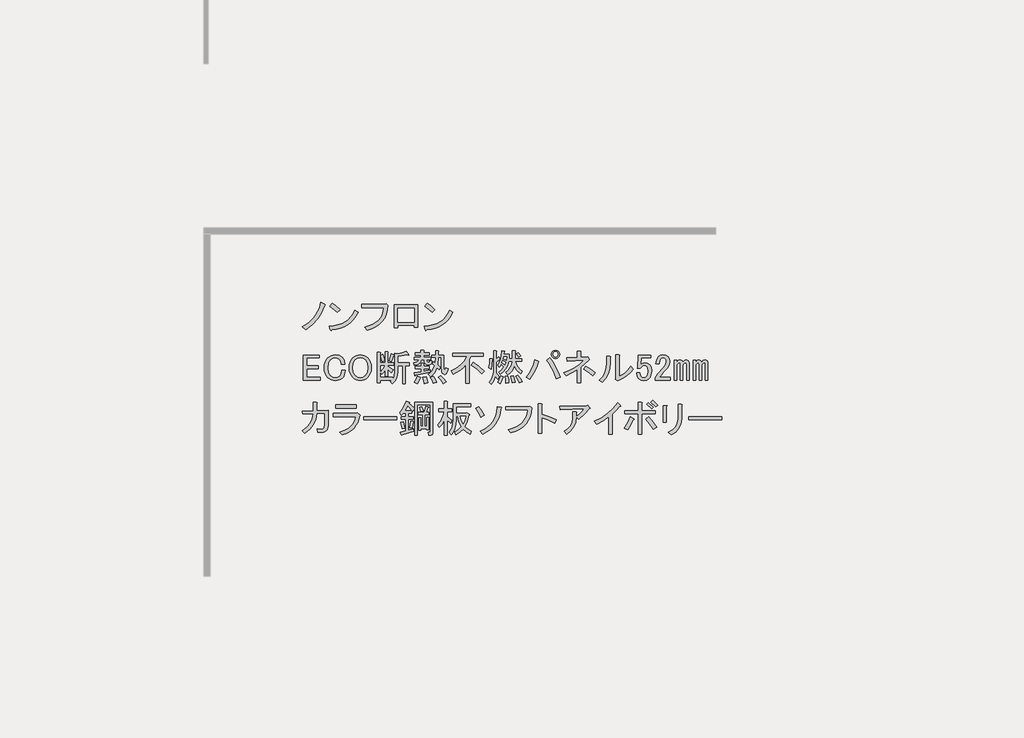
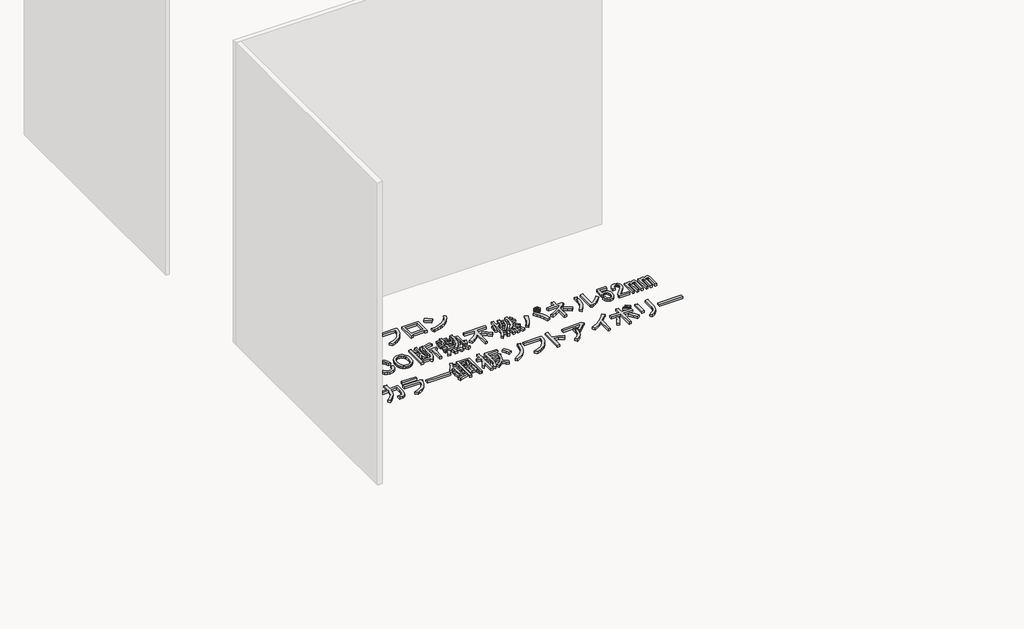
# One storey, part 102 of 117: 1 proxy.
"""IFC4 building model written with IfcOpenShell, lengths in millimetres."""

from ifc_helpers import new_model, si_unit, frame, origin, place, context, project, spatial, polyline, outline, extrude, element, save

model = new_model("IFC4")

# Units and contexts
model_context = context("Model", 3, world=origin())
ifc_project = project(units=[si_unit("LENGTHUNIT", "METRE", prefix="MILLI")], contexts=[model_context])

# Site, building, storey
site = spatial("IfcSite", under=ifc_project)
building = spatial("IfcBuilding", under=site)
storey = spatial("IfcBuildingStorey", under=building, Name="レベル 1", Elevation=500.0)

# Proxy
placement = place(None, origin())
element("IfcBuildingElementProxy", 1, Name="200㎜\u3000MS Pゴシック", ObjectType="200㎜\u3000MS Pゴシック", at=placement, inside=storey, context=model_context, shape_type="SweptSolid", body=[
    extrude(outline(polyline([(32944.6706985, 7391.9503118), (32919.0952502, 7332.1784775), (32890.646156, 7286.2001434), (32848.9782907, 7240.7965385), (32799.8389462, 7203.439142), (32772.2519457, 7225.2788507), (32819.9544673, 7255.7394971), (32859.6107805, 7294.2463519), (32876.9963381, 7318.1694538), (32892.3703435, 7346.2593423), (32905.7327969, 7378.5160173), (32917.0836981, 7414.9394788), (32948.1190736, 7401.1459786), (32951.2800841, 7396.5481452), (32944.6706985, 7391.9503118)])), frame((0.0, 0.0, 500.0), z_axis=(0.0, 0.0, 1.0), x_axis=(1.0, 0.0, 0.0)), (0.0, 0.0, 1.0), 25.0),
    extrude(outline(polyline([(33044.3977052, 7336.7763109), (32985.7753292, 7383.9041033), (33005.3161212, 7408.0427287), (33032.6157571, 7388.2145721), (33066.2374138, 7358.6160196), (33044.3977052, 7336.7763109)])), frame((0.0, 0.0, 500.0), z_axis=(0.0, 0.0, 1.0), x_axis=(1.0, 0.0, 0.0)), (0.0, 0.0, 1.0), 25.0),
    extrude(outline(polyline([(33206.4713328, 7336.7763109), (33189.947869, 7307.034076), (33170.8381239, 7281.0275808), (33149.1420975, 7258.7568252), (33124.8597898, 7240.2218093), (33097.9912008, 7225.422533), (33068.5363306, 7214.3589964), (33036.495179, 7207.0311994), (33001.8677461, 7203.439142), (32996.1204544, 7195.3929336), (32990.3731626, 7201.1402253), (32981.1774958, 7231.0261425), (33017.0082679, 7233.7022252), (33049.7857912, 7240.0062859), (33079.5100658, 7249.9383244), (33106.1810916, 7263.4983409), (33129.7988687, 7280.6863354), (33150.363397, 7301.5023077), (33167.8746766, 7325.946258), (33182.3327074, 7354.0181862), (33206.4713328, 7336.7763109)])), frame((0.0, 0.0, 500.0), z_axis=(0.0, 0.0, 1.0), x_axis=(1.0, 0.0, 0.0)), (0.0, 0.0, 1.0), 25.0),
    extrude(outline(polyline([(33257.2314136, 7221.8304757), (33291.014713, 7231.5110702), (33320.5234641, 7243.8857078), (33345.757667, 7258.9543884), (33366.7173217, 7276.717112), (33383.402428, 7297.1738786), (33395.8129862, 7320.3246882), (33403.9489961, 7346.1695409), (33407.8104577, 7374.7084365), (33235.3917049, 7374.7084365), (33235.3917049, 7399.9965202), (33410.1093744, 7399.9965202), (33426.2017914, 7403.4448953), (33438.8458332, 7391.9503118), (33435.325617, 7355.4550091), (33427.0638851, 7322.4080815), (33414.0606375, 7292.8095289), (33396.3158742, 7266.6593514), (33373.8295952, 7243.957549), (33346.6018005, 7224.7041216), (33314.6324901, 7208.8990692), (33277.921664, 7196.5423919), (33257.2314136, 7221.8304757)])), frame((0.0, 0.0, 500.0), z_axis=(0.0, 0.0, 1.0), x_axis=(1.0, 0.0, 0.0)), (0.0, 0.0, 1.0), 25.0),
    extrude(outline(polyline([(33671.955987, 7222.979934), (33645.5184449, 7222.979934), (33645.5184449, 7235.6239759), (33517.9285679, 7235.6239759), (33517.9285679, 7217.2326423), (33491.4910258, 7217.2326423), (33491.4910258, 7396.5481452), (33671.955987, 7396.5481452), (33671.955987, 7222.979934)]), holes=[polyline([(33517.9285679, 7371.2600614), (33517.9285679, 7260.9120596), (33645.5184449, 7260.9120596), (33645.5184449, 7371.2600614), (33517.9285679, 7371.2600614)])]), frame((0.0, 0.0, 500.0), z_axis=(0.0, 0.0, 1.0), x_axis=(1.0, 0.0, 0.0)), (0.0, 0.0, 1.0), 25.0),
    extrude(outline(polyline([(33948.0099049, 7336.7763109), (33931.4864411, 7307.034076), (33912.376696, 7281.0275808), (33890.6806696, 7258.7568252), (33866.3983619, 7240.2218093), (33839.5297729, 7225.422533), (33810.0749026, 7214.3589964), (33778.0337511, 7207.0311994), (33743.4063182, 7203.439142), (33737.6590264, 7195.3929336), (33731.9117347, 7201.1402253), (33722.7160679, 7231.0261425), (33758.5468399, 7233.7022252), (33791.3243633, 7240.0062859), (33821.0486378, 7249.9383244), (33847.7196637, 7263.4983409), (33871.3374407, 7280.6863354), (33891.9019691, 7301.5023077), (33909.4132486, 7325.946258), (33923.8712795, 7354.0181862), (33948.0099049, 7336.7763109)])), frame((0.0, 0.0, 500.0), z_axis=(0.0, 0.0, 1.0), x_axis=(1.0, 0.0, 0.0)), (0.0, 0.0, 1.0), 25.0),
    extrude(outline(polyline([(33785.9362772, 7336.7763109), (33727.3139013, 7383.9041033), (33746.8546933, 7408.0427287), (33774.1543291, 7388.2145721), (33807.7759859, 7358.6160196), (33785.9362772, 7336.7763109)])), frame((0.0, 0.0, 500.0), z_axis=(0.0, 0.0, 1.0), x_axis=(1.0, 0.0, 0.0)), (0.0, 0.0, 1.0), 25.0),
    extrude(outline(polyline([(32777.9992375, 7003.4448953), (32904.4396562, 7003.4448953), (32904.4396562, 6981.6051866), (32804.4367796, 6981.6051866), (32804.4367796, 6920.683894), (32897.5429061, 6920.683894), (32897.5429061, 6898.8441853), (32804.4367796, 6898.8441853), (32804.4367796, 6828.7272258), (32910.186948, 6828.7272258), (32910.186948, 6806.8875171), (32777.9992375, 6806.8875171), (32777.9992375, 7003.4448953)])), frame((0.0, 0.0, 500.0), z_axis=(0.0, 0.0, 1.0), x_axis=(1.0, 0.0, 0.0)), (0.0, 0.0, 1.0), 25.0),
    extrude(outline(polyline([(32942.2798252, 6904.591477), (32944.0758538, 6928.514579), (32949.4639399, 6949.7077173), (32958.4440832, 6968.1708921), (32971.016284, 6983.9041033), (32996.0170031, 7000.2838848), (33027.3397432, 7005.743812), (33058.0877541, 7000.858614), (33081.3642858, 6986.20302), (33097.1693381, 6962.6391238), (33103.2039944, 6933.3279358), (33075.616994, 6933.3279358), (33070.731796, 6954.5929153), (33060.6740354, 6970.1106031), (33045.4437123, 6980.4557283), (33027.3397432, 6983.9041033), (33007.7989512, 6979.8809991), (32990.5570759, 6967.8116864), (32981.5050914, 6956.1015794), (32975.0393882, 6941.6615089), (32969.8668256, 6904.591477), (32975.0393882, 6867.5214452), (32981.5050914, 6853.0813746), (32990.5570759, 6841.3712677), (33007.2242221, 6830.1640487), (33027.3397432, 6826.4283091), (33047.742629, 6829.5893196), (33062.9729521, 6839.072351), (33075.0422648, 6858.6131429), (33079.0653691, 6885.050685), (33106.6523695, 6885.050685), (33100.3303486, 6850.2795699), (33093.2899162, 6836.1268639), (33083.6632025, 6824.1293924), (33072.8151893, 6815.5802959), (33059.8119417, 6809.4737984), (33027.3397432, 6804.5886004), (32996.0170031, 6810.0485276), (32971.016284, 6826.4283091), (32958.4440832, 6842.0896791), (32949.4639399, 6860.3373305), (32944.0758538, 6881.1712631), (32942.2798252, 6904.591477)])), frame((0.0, 0.0, 500.0), z_axis=(0.0, 0.0, 1.0), x_axis=(1.0, 0.0, 0.0)), (0.0, 0.0, 1.0), 25.0),
    extrude(outline(polyline([(33137.6417667, 6905.7409354), (33139.3659542, 6928.5864201), (33144.5385168, 6948.8456236), (33153.1594544, 6966.5185457), (33165.2287671, 6981.6051866), (33177.9446501, 6992.1658352), (33191.9536738, 6999.7091557), (33207.2558381, 7004.2351479), (33223.8511431, 7005.743812), (33240.446448, 7004.2351479), (33255.7486123, 6999.7091557), (33269.757636, 6992.1658352), (33282.473519, 6981.6051866), (33294.5428317, 6966.5185457), (33303.1637694, 6948.8456236), (33308.336332, 6928.5864201), (33310.0605195, 6905.7409354), (33308.336332, 6882.8954506), (33303.1637694, 6862.6362472), (33294.5428317, 6844.963325), (33282.473519, 6829.8766841), (33269.757636, 6819.3160355), (33255.7486123, 6811.7727151), (33240.446448, 6807.2467228), (33223.8511431, 6805.7380587), (33207.2558381, 6807.2467228), (33191.9536738, 6811.7727151), (33177.9446501, 6819.3160355), (33165.2287671, 6829.8766841), (33153.1594544, 6844.963325), (33144.5385168, 6862.6362472), (33139.3659542, 6882.8954506), (33137.6417667, 6905.7409354)]), holes=[polyline([(33223.8511431, 6983.9041033), (33203.1608927, 6979.5936345), (33184.7695591, 6966.662228), (33176.2204626, 6955.5268502), (33170.1139651, 6941.6615089), (33165.2287671, 6905.7409354), (33170.1139651, 6869.8203619), (33176.2204626, 6855.9550205), (33184.7695591, 6844.8196427), (33203.1608927, 6831.8882363), (33223.8511431, 6827.5777674), (33244.5413934, 6831.8882363), (33262.932727, 6844.8196427), (33271.4818235, 6855.9550205), (33277.588321, 6869.8203619), (33282.473519, 6905.7409354), (33277.588321, 6941.6615089), (33271.4818235, 6955.5268502), (33262.932727, 6966.662228), (33244.5413934, 6979.5936345), (33223.8511431, 6983.9041033)])]), frame((0.0, 0.0, 500.0), z_axis=(0.0, 0.0, 1.0), x_axis=(1.0, 0.0, 0.0)), (0.0, 0.0, 1.0), 25.0),
    extrude(outline(polyline([(33448.8691101, 6959.7654779), (33466.1109854, 7012.6405621), (33486.8012357, 7006.8932704), (33488.5254232, 7003.7322599), (33484.502319, 7001.1459786), (33467.2604437, 6952.8687278), (33448.8691101, 6959.7654779)])), frame((0.0, 0.0, 500.0), z_axis=(0.0, 0.0, 1.0), x_axis=(1.0, 0.0, 0.0)), (0.0, 0.0, 1.0), 25.0),
    extrude(outline(polyline([(33602.8965292, 7008.0427287), (33601.1723417, 7003.4448953), (33593.7008624, 7005.743812), (33516.6871528, 6993.0997701), (33516.6871528, 6943.673061), (33608.643821, 6943.673061), (33608.643821, 6921.8333523), (33577.6084455, 6921.8333523), (33577.6084455, 6781.5994334), (33554.6192785, 6781.5994334), (33554.6192785, 6921.8333523), (33516.6871528, 6921.8333523), (33516.6871528, 6872.4066432), (33514.1008716, 6844.6041193), (33506.3420277, 6819.8189236), (33493.4106212, 6798.051056), (33475.3066522, 6779.3005167), (33458.0647769, 6798.8413086), (33468.4099021, 6808.0369755), (33378.7521506, 6808.0369755), (33378.7521506, 6786.1972668), (33355.7629836, 6786.1972668), (33355.7629836, 7025.284604), (33377.6026922, 7025.284604), (33382.4878902, 7022.9856873), (33378.7521506, 7018.3878539), (33378.7521506, 6942.5236026), (33421.2821096, 6942.5236026), (33421.2821096, 7029.8824374), (33439.6734433, 7029.8824374), (33444.5586413, 7027.5835207), (33440.8229016, 7022.9856873), (33440.8229016, 6942.5236026), (33484.502319, 6942.5236026), (33484.502319, 6924.132269), (33440.8229016, 6924.132269), (33440.8229016, 6914.9366022), (33481.0539439, 6888.4990601), (33467.2604437, 6866.6593514), (33440.8229016, 6893.0968935), (33440.8229016, 6840.2218093), (33421.2821096, 6840.2218093), (33421.2821096, 6888.4990601), (33408.0633386, 6868.6709035), (33393.6951092, 6852.8658512), (33381.0510673, 6871.2571848), (33402.890776, 6895.3958102), (33420.1326513, 6924.132269), (33378.7521506, 6924.132269), (33378.7521506, 6829.8766841), (33476.4561105, 6829.8766841), (33476.4561105, 6816.0831839), (33489.387517, 6840.2218093), (33493.6979858, 6873.5561015), (33493.6979858, 7018.3878539), (33515.5376945, 7012.6405621), (33551.7456326, 7020.1120414), (33582.2062789, 7033.3308125), (33602.8965292, 7008.0427287)])), frame((0.0, 0.0, 500.0), z_axis=(0.0, 0.0, 1.0), x_axis=(1.0, 0.0, 0.0)), (0.0, 0.0, 1.0), 25.0),
    extrude(outline(polyline([(33394.8445675, 6951.7192695), (33382.2005257, 7002.2954369), (33401.7413176, 7009.1921871), (33409.5001615, 6985.0535617), (33414.3853595, 6958.6160196), (33394.8445675, 6951.7192695)])), frame((0.0, 0.0, 500.0), z_axis=(0.0, 0.0, 1.0), x_axis=(1.0, 0.0, 0.0)), (0.0, 0.0, 1.0), 25.0),
    extrude(outline(polyline([(33738.5326148, 6835.6239759), (33748.5903754, 6808.32434), (33753.4755734, 6786.1972668), (33724.7391146, 6780.449975), (33722.1528333, 6802.0023191), (33714.3939894, 6832.1756008), (33738.5326148, 6835.6239759)])), frame((0.0, 0.0, 500.0), z_axis=(0.0, 0.0, 1.0), x_axis=(1.0, 0.0, 0.0)), (0.0, 0.0, 1.0), 25.0),
    extrude(outline(polyline([(33794.856074, 6782.7488917), (33786.522501, 6807.4622463), (33773.0163654, 6828.7272258), (33793.7066157, 6836.7734343), (33810.6611264, 6815.2210902), (33822.4430745, 6791.9445585), (33794.856074, 6782.7488917)])), frame((0.0, 0.0, 500.0), z_axis=(0.0, 0.0, 1.0), x_axis=(1.0, 0.0, 0.0)), (0.0, 0.0, 1.0), 25.0),
    extrude(outline(polyline([(33693.7037391, 6831.0261425), (33697.1521141, 6826.1409445), (33691.4048224, 6822.979934), (33681.6344264, 6797.4044857), (33670.714572, 6778.1510583), (33647.725405, 6789.6456418), (33660.3694469, 6813.209538), (33670.714572, 6840.2218093), (33693.7037391, 6831.0261425)])), frame((0.0, 0.0, 500.0), z_axis=(0.0, 0.0, 1.0), x_axis=(1.0, 0.0, 0.0)), (0.0, 0.0, 1.0), 25.0),
    extrude(outline(polyline([(33725.8885729, 6967.8116864), (33700.6004892, 6967.8116864), (33696.0026558, 6950.3542877), (33685.6575306, 6937.0636755), (33669.5651137, 6927.9398498), (33647.725405, 6922.9828107), (33643.1275716, 6942.5236026), (33668.4156553, 6951.1445403), (33675.8871346, 6958.4723373), (33679.9102388, 6967.8116864), (33644.2770299, 6967.8116864), (33644.2770299, 6986.20302), (33698.3015725, 6986.20302), (33698.3015725, 7003.4448953), (33654.6221551, 7003.4448953), (33654.6221551, 7021.8362289), (33698.3015725, 7021.8362289), (33698.3015725, 7040.2275626), (33720.1412812, 7040.2275626), (33725.0264792, 7037.9286459), (33721.2907395, 7033.3308125), (33721.2907395, 7021.8362289), (33763.8206985, 7021.8362289), (33763.8206985, 7003.4448953), (33721.2907395, 7003.4448953), (33721.2907395, 6986.20302), (33774.1658237, 6986.20302), (33774.1658237, 6967.8116864), (33745.4293649, 6967.8116864), (33745.4293649, 6955.1676445), (33746.8661878, 6949.9950819), (33751.1766567, 6948.2708944), (33761.5217818, 6948.2708944), (33765.2575215, 6951.4319049), (33764.9701569, 6960.9149363), (33784.5109489, 6958.6160196), (33781.637303, 6937.0636755), (33776.3210581, 6931.6755894), (33768.4185319, 6929.8795608), (33744.2799066, 6929.8795608), (33730.4864063, 6934.7647588), (33725.8885729, 6949.4203528), (33725.8885729, 6967.8116864)])), frame((0.0, 0.0, 500.0), z_axis=(0.0, 0.0, 1.0), x_axis=(1.0, 0.0, 0.0)), (0.0, 0.0, 1.0), 25.0),
    extrude(outline(polyline([(33856.9268251, 6985.0535617), (33835.0871164, 6985.0535617), (33830.489283, 6927.5806441), (33850.0300749, 6909.1893104), (33839.6849498, 6887.3496017), (33823.5925328, 6903.4420187), (33804.3391054, 6865.7972576), (33774.1658237, 6833.3250592), (33756.9239484, 6854.0153095), (33772.0105893, 6865.9409399), (33785.085678, 6881.0275808), (33796.1492147, 6899.2752321), (33805.2011992, 6920.683894), (33787.9593239, 6935.6268525), (33796.0055324, 6952.8687278), (33809.7990326, 6942.5236026), (33812.0979493, 6985.0535617), (33784.5109489, 6985.0535617), (33784.5109489, 7003.4448953), (33812.0979493, 7003.4448953), (33812.0979493, 7037.9286459), (33833.937658, 7037.9286459), (33838.822856, 7035.6297292), (33835.0871164, 7031.0318957), (33835.0871164, 7003.4448953), (33876.467617, 7003.4448953), (33876.467617, 6906.8903937), (33879.9159921, 6882.7517683), (33883.1488437, 6880.7402162), (33885.9506484, 6883.9012267), (33890.2611173, 6905.7409354), (33909.8019092, 6898.8441853), (33905.275917, 6872.0474374), (33897.445232, 6856.0268616), (33886.3098542, 6850.7824579), (33871.8697836, 6856.3142262), (33865.3322393, 6863.6420232), (33860.6625647, 6875.280289), (33856.9268251, 6911.4882271), (33856.9268251, 6985.0535617)])), frame((0.0, 0.0, 500.0), z_axis=(0.0, 0.0, 1.0), x_axis=(1.0, 0.0, 0.0)), (0.0, 0.0, 1.0), 25.0),
    extrude(outline(polyline([(33655.7716134, 6845.9691011), (33653.7600613, 6841.0839031), (33650.0243217, 6842.520726), (33644.2770299, 6866.6593514), (33699.4510308, 6874.7055599), (33699.4510308, 6897.6947269), (33655.7716134, 6897.6947269), (33655.7716134, 6916.0860605), (33699.4510308, 6916.0860605), (33699.4510308, 6939.0752276), (33717.8423645, 6939.0752276), (33722.7275625, 6936.7763109), (33718.9918228, 6932.1784775), (33718.9918228, 6916.0860605), (33763.8206985, 6916.0860605), (33763.8206985, 6897.6947269), (33718.9918228, 6897.6947269), (33718.9918228, 6878.1539349), (33769.5679903, 6887.3496017), (33769.5679903, 6871.2571848), (33655.7716134, 6845.9691011)])), frame((0.0, 0.0, 500.0), z_axis=(0.0, 0.0, 1.0), x_axis=(1.0, 0.0, 0.0)), (0.0, 0.0, 1.0), 25.0),
    extrude(outline(polyline([(33853.47845, 6841.3712677), (33878.1918046, 6820.1062881), (33897.1578674, 6795.3929336), (33870.7203253, 6780.449975), (33851.4668979, 6810.0485276), (33832.7881997, 6829.8766841), (33853.47845, 6841.3712677)])), frame((0.0, 0.0, 500.0), z_axis=(0.0, 0.0, 1.0), x_axis=(1.0, 0.0, 0.0)), (0.0, 0.0, 1.0), 25.0),
    extrude(outline(polyline([(34171.8784135, 6857.4636846), (34132.7968295, 6895.6831748), (34091.4163289, 6925.2817274), (34107.5087458, 6945.9719777), (34151.1881632, 6917.8102481), (34192.5686638, 6879.3033933), (34171.8784135, 6857.4636846)])), frame((0.0, 0.0, 500.0), z_axis=(0.0, 0.0, 1.0), x_axis=(1.0, 0.0, 0.0)), (0.0, 0.0, 1.0), 25.0),
    extrude(outline(polyline([(33945.4351182, 7018.3878539), (34186.8213721, 7018.3878539), (34186.8213721, 6993.0997701), (34086.8184955, 6993.0997701), (34076.4733703, 6968.9611447), (34076.4733703, 6782.7488917), (34050.0358282, 6782.7488917), (34050.0358282, 6929.8795608), (34029.2018956, 6906.6030291), (34005.7816816, 6886.2001434), (33979.7751864, 6868.6709035), (33951.1824099, 6854.0153095), (33935.089993, 6880.4528516), (33974.674465, 6900.8557374), (34008.3679629, 6926.4311857), (34036.1704868, 6957.1791966), (34058.0820367, 6993.0997701), (33945.4351182, 6993.0997701), (33945.4351182, 7018.3878539)])), frame((0.0, 0.0, 500.0), z_axis=(0.0, 0.0, 1.0), x_axis=(1.0, 0.0, 0.0)), (0.0, 0.0, 1.0), 25.0),
    extrude(outline(polyline([(34359.2401249, 6783.8983501), (34359.8148541, 6810.9106213), (34356.9412082, 6839.072351), (34376.4820002, 6840.2218093), (34382.8040211, 6814.0716318), (34383.3787503, 6786.1972668), (34359.2401249, 6783.8983501)])), frame((0.0, 0.0, 500.0), z_axis=(0.0, 0.0, 1.0), x_axis=(1.0, 0.0, 0.0)), (0.0, 0.0, 1.0), 25.0),
    extrude(outline(polyline([(34339.6993329, 6835.6239759), (34331.0783953, 6805.1633296), (34316.7101659, 6778.1510583), (34297.1693739, 6790.7951002), (34311.2502387, 6815.5084547), (34321.3079993, 6843.6701844), (34339.6993329, 6835.6239759)])), frame((0.0, 0.0, 500.0), z_axis=(0.0, 0.0, 1.0), x_axis=(1.0, 0.0, 0.0)), (0.0, 0.0, 1.0), 25.0),
    extrude(outline(polyline([(34254.6394149, 6973.5589781), (34259.2372483, 6971.2600614), (34254.6394149, 6966.662228), (34253.4899565, 6927.0059149), (34247.7426647, 6893.0968935), (34229.3513311, 6905.7409354), (34235.0986229, 6940.2246859), (34236.2480812, 6977.0073532), (34254.6394149, 6973.5589781)])), frame((0.0, 0.0, 500.0), z_axis=(0.0, 0.0, 1.0), x_axis=(1.0, 0.0, 0.0)), (0.0, 0.0, 1.0), 25.0),
    extrude(outline(polyline([(34306.3650407, 6991.9503118), (34315.5607075, 6974.7084365), (34316.9975305, 6968.6737801), (34312.1123325, 6968.9611447), (34285.6747904, 6948.2708944), (34285.6747904, 6864.3604347), (34299.4682906, 6852.0037574), (34310.9628741, 6835.6239759), (34298.3188322, 6814.9337256), (34279.9274986, 6840.2218093), (34268.1455505, 6804.3012358), (34246.5932064, 6774.7026832), (34231.6502478, 6793.0940169), (34246.7368887, 6811.8445562), (34257.5130607, 6832.4629654), (34263.978764, 6854.9492444), (34266.1339984, 6879.3033933), (34266.1339984, 7036.7791875), (34284.525332, 7036.7791875), (34289.41053, 7034.4802708), (34285.6747904, 7029.8824374), (34285.6747904, 6971.2600614), (34306.3650407, 6991.9503118)])), frame((0.0, 0.0, 500.0), z_axis=(0.0, 0.0, 1.0), x_axis=(1.0, 0.0, 0.0)), (0.0, 0.0, 1.0), 25.0),
    extrude(outline(polyline([(34456.9440848, 7022.9856873), (34478.7837935, 6998.8470619), (34461.5419182, 6987.3524784), (34454.9325327, 6998.8470619), (34442.0011262, 7012.6405621), (34456.9440848, 7022.9856873)])), frame((0.0, 0.0, 500.0), z_axis=(0.0, 0.0, 1.0), x_axis=(1.0, 0.0, 0.0)), (0.0, 0.0, 1.0), 25.0),
    extrude(outline(polyline([(34467.28921, 6786.1972668), (34454.0704389, 6814.3589964), (34437.4032928, 6839.072351), (34455.7946265, 6847.1185594), (34474.7606893, 6824.1293924), (34490.278377, 6796.5423919), (34467.28921, 6786.1972668)])), frame((0.0, 0.0, 500.0), z_axis=(0.0, 0.0, 1.0), x_axis=(1.0, 0.0, 0.0)), (0.0, 0.0, 1.0), 25.0),
    extrude(outline(polyline([(34417.8625008, 6841.3712677), (34436.2538345, 6791.9445585), (34412.1152091, 6787.3467251), (34398.3217089, 6837.9228926), (34417.8625008, 6841.3712677)])), frame((0.0, 0.0, 500.0), z_axis=(0.0, 0.0, 1.0), x_axis=(1.0, 0.0, 0.0)), (0.0, 0.0, 1.0), 25.0),
    extrude(outline(polyline([(34478.7837935, 6856.3142262), (34448.0357826, 6886.7748726), (34427.0581677, 6920.683894), (34418.6527535, 6898.5568207), (34407.2300111, 6879.3033933), (34392.7899405, 6862.9236118), (34375.3325418, 6849.4174761), (34361.5390416, 6867.8088098), (34382.3729742, 6886.7030314), (34397.7469797, 6907.7524875), (34407.661058, 6930.957178), (34412.1152091, 6956.3171029), (34383.3787503, 6956.3171029), (34375.404383, 6925.7127742), (34361.8264062, 6898.2694561), (34342.6448199, 6873.9871484), (34317.8596242, 6852.8658512), (34305.2155823, 6868.9582681), (34331.0783953, 6890.5106122), (34346.596083, 6911.4882271), (34324.7563743, 6931.0290191), (34310.9628741, 6910.3387688), (34297.1693739, 6925.2817274), (34309.5978923, 6944.3196313), (34319.2964472, 6969.2485093), (34326.2650384, 7000.0683614), (34330.5036661, 7036.7791875), (34351.1939164, 7034.4802708), (34354.6422915, 7031.8939895), (34348.8949997, 7028.732979), (34346.596083, 7010.3416454), (34390.2755004, 7010.3416454), (34386.8271253, 6974.7084365), (34412.1152091, 6974.7084365), (34412.1152091, 7036.7791875), (34433.9549178, 7036.7791875), (34438.8401158, 7034.4802708), (34435.1043761, 7029.8824374), (34435.1043761, 6974.7084365), (34484.5310853, 6974.7084365), (34484.5310853, 6956.3171029), (34435.1043761, 6956.3171029), (34441.6419205, 6934.5492353), (34453.2083452, 6914.0745084), (34469.8036501, 6894.8929222), (34491.4278354, 6877.0044766), (34478.7837935, 6856.3142262)]), holes=[polyline([(34354.6422915, 6926.4311857), (34361.5390416, 6945.9719777), (34336.2509579, 6962.0643946), (34330.5036661, 6944.8225193), (34354.6422915, 6926.4311857)]), polyline([(34344.2971663, 6991.9503118), (34340.8487913, 6975.8578948), (34366.136875, 6962.0643946), (34370.7347084, 6991.9503118), (34344.2971663, 6991.9503118)])]), frame((0.0, 0.0, 500.0), z_axis=(0.0, 0.0, 1.0), x_axis=(1.0, 0.0, 0.0)), (0.0, 0.0, 1.0), 25.0),
    extrude(outline(polyline([(34704.0776305, 6982.754645), (34730.730696, 6946.0438188), (34753.2169751, 6908.3272167), (34771.5364675, 6869.6048384), (34785.6891735, 6829.8766841), (34754.653798, 6819.531559), (34739.2079514, 6862.6362472), (34721.6068704, 6901.143102), (34701.850555, 6935.0521234), (34679.9390051, 6964.3633113), (34704.0776305, 6982.754645)])), frame((0.0, 0.0, 500.0), z_axis=(0.0, 0.0, 1.0), x_axis=(1.0, 0.0, 0.0)), (0.0, 0.0, 1.0), 25.0),
    extrude(outline(polyline([(34616.7187958, 6956.3171029), (34620.7419, 6950.8571757), (34614.419879, 6945.9719777), (34602.4942486, 6910.5542922), (34587.4076078, 6876.717112), (34569.1599564, 6844.460437), (34547.7512946, 6813.7842672), (34521.3137525, 6831.0261425), (34544.518443, 6862.4925649), (34563.556347, 6895.9705394), (34578.4274644, 6931.460066), (34589.1317953, 6968.9611447), (34616.7187958, 6956.3171029)])), frame((0.0, 0.0, 500.0), z_axis=(0.0, 0.0, 1.0), x_axis=(1.0, 0.0, 0.0)), (0.0, 0.0, 1.0), 25.0),
    extrude(outline(polyline([(34750.0559646, 6977.0073532), (34737.4119227, 6979.3062699), (34727.0667975, 6986.20302), (34720.1700474, 6996.5481452), (34717.8711307, 7009.1921871), (34720.1700474, 7021.8362289), (34727.0667975, 7032.1813541), (34737.4119227, 7039.0781042), (34750.0559646, 7041.3770209), (34762.7000065, 7039.0781042), (34773.0451316, 7032.1813541), (34779.9418817, 7021.8362289), (34782.2407984, 7009.1921871), (34779.9418817, 6996.5481452), (34773.0451316, 6986.20302), (34762.7000065, 6979.3062699), (34750.0559646, 6977.0073532)]), holes=[polyline([(34750.0559646, 6988.5019367), (34758.3895376, 6989.9387597), (34764.9989232, 6994.2492285), (34769.309392, 7000.858614), (34770.7462149, 7009.1921871), (34769.309392, 7017.5257601), (34764.9989232, 7024.1351456), (34758.3895376, 7028.4456145), (34750.0559646, 7029.8824374), (34741.7223915, 7028.4456145), (34735.113006, 7024.1351456), (34730.8025372, 7017.5257601), (34729.3657143, 7009.1921871), (34730.8025372, 7000.858614), (34735.113006, 6994.2492285), (34741.7223915, 6989.9387597), (34750.0559646, 6988.5019367)])]), frame((0.0, 0.0, 500.0), z_axis=(0.0, 0.0, 1.0), x_axis=(1.0, 0.0, 0.0)), (0.0, 0.0, 1.0), 25.0),
    extrude(outline(polyline([(34993.7411352, 6987.3524784), (35000.6378853, 6989.6513951), (35013.2819272, 6972.4095198), (35014.4313856, 6966.3748634), (35008.6840938, 6964.3633113), (34945.4638844, 6908.0398521), (34945.4638844, 6787.3467251), (34919.0263423, 6787.3467251), (34919.0263423, 6889.6485184), (34878.7953, 6865.5098931), (34833.9664243, 6843.6701844), (34814.4256323, 6864.3604347), (34859.9729195, 6883.8293855), (34901.2097379, 6906.6030291), (34938.1360874, 6932.6813655), (34970.7519682, 6962.0643946), (34840.8631744, 6956.3171029), (34837.4147993, 6981.6051866), (34919.0263423, 6983.9041033), (34919.0263423, 7035.6297292), (34942.0155094, 7035.6297292), (34948.0501657, 7032.1813541), (34945.4638844, 7026.4340623), (34945.4638844, 6985.0535617), (34993.7411352, 6987.3524784)])), frame((0.0, 0.0, 500.0), z_axis=(0.0, 0.0, 1.0), x_axis=(1.0, 0.0, 0.0)), (0.0, 0.0, 1.0), 25.0),
    extrude(outline(polyline([(35039.7194693, 6843.6701844), (35002.6494375, 6872.9813723), (34969.6025098, 6894.2463519), (34986.8443851, 6916.0860605), (35025.6386045, 6892.8095289), (35059.2602613, 6866.6593514), (35039.7194693, 6843.6701844)])), frame((0.0, 0.0, 500.0), z_axis=(0.0, 0.0, 1.0), x_axis=(1.0, 0.0, 0.0)), (0.0, 0.0, 1.0), 25.0),
    extrude(outline(polyline([(35246.7139293, 6836.7734343), (35271.4991251, 6848.9864292), (35295.2785447, 6866.0846222), (35318.0521883, 6888.0680132), (35339.8200559, 6914.9366022), (35355.9124728, 6893.0968935), (35332.6359412, 6865.2943696), (35306.4857636, 6841.6586322), (35277.4619403, 6822.1896814), (35245.564471, 6806.8875171), (35236.3688042, 6802.2896837), (35217.9774705, 6816.0831839), (35220.2763872, 6821.8304757), (35220.2763872, 7006.8932704), (35244.4150126, 7006.8932704), (35250.1623044, 7003.4448953), (35246.7139293, 6997.6976035), (35246.7139293, 6836.7734343)])), frame((0.0, 0.0, 500.0), z_axis=(0.0, 0.0, 1.0), x_axis=(1.0, 0.0, 0.0)), (0.0, 0.0, 1.0), 25.0),
    extrude(outline(polyline([(35092.6865102, 6805.7380587), (35117.8309116, 6834.9774056), (35135.7911984, 6867.5214452), (35146.5673704, 6903.3701775), (35150.1594278, 6942.5236026), (35150.1594278, 6994.2492285), (35174.2980532, 6994.2492285), (35180.0453449, 6990.8008534), (35176.5969699, 6985.0535617), (35176.5969699, 6943.673061), (35172.7893891, 6897.9102504), (35161.3666467, 6857.17632), (35142.3287427, 6821.4712699), (35115.6756772, 6790.7951002), (35092.6865102, 6805.7380587)])), frame((0.0, 0.0, 500.0), z_axis=(0.0, 0.0, 1.0), x_axis=(1.0, 0.0, 0.0)), (0.0, 0.0, 1.0), 25.0),
    extrude(outline(polyline([(35397.2929735, 7003.4448953), (35496.1463917, 7003.4448953), (35496.1463917, 6981.6051866), (35419.1326821, 6981.6051866), (35419.1326821, 6978.1568116), (35415.6843071, 6935.6268525), (35414.5348487, 6928.7301024), (35430.0525365, 6939.0752276), (35446.7196826, 6942.5236026), (35467.6972975, 6938.787863), (35484.6518082, 6927.5806441), (35496.7211209, 6907.7524875), (35500.7442251, 6880.4528516), (35495.5716626, 6845.9691011), (35489.1059593, 6832.1756008), (35480.0539748, 6820.6810173), (35461.9500058, 6808.6117046), (35439.8229325, 6804.5886004), (35418.8453176, 6808.32434), (35401.8908069, 6819.531559), (35389.8214942, 6838.2102572), (35383.4994732, 6864.3604347), (35409.9370153, 6864.3604347), (35413.9601196, 6845.6817365), (35421.4315989, 6833.3250592), (35429.1904427, 6828.1524966), (35438.6734741, 6826.4283091), (35451.0301514, 6828.4398612), (35460.5131828, 6834.4745175), (35469.9962142, 6851.4290282), (35473.1572247, 6877.0044766), (35470.5709434, 6901.143102), (35462.8120995, 6916.0860605), (35455.3406202, 6921.2586231), (35446.7196826, 6922.9828107), (35433.7882761, 6920.3965294), (35422.5810572, 6912.6376855), (35413.3853904, 6902.2925603), (35390.3962233, 6902.2925603), (35391.5456817, 6910.3387688), (35397.2929735, 6998.8470619), (35397.2929735, 7003.4448953)])), frame((0.0, 0.0, 500.0), z_axis=(0.0, 0.0, 1.0), x_axis=(1.0, 0.0, 0.0)), (0.0, 0.0, 1.0), 25.0),
    extrude(outline(polyline([(35535.2279757, 6936.7763109), (35539.8258091, 6968.099051), (35553.6193093, 6990.8008534), (35569.9990909, 7002.0080724), (35589.2525182, 7005.743812), (35611.9543207, 7002.0080724), (35629.4835606, 6990.8008534), (35640.6907795, 6974.1337073), (35644.4265191, 6954.0181862), (35640.1160503, 6928.1553732), (35627.1846439, 6905.7409354), (35593.8503517, 6867.8088098), (35575.459018, 6847.1185594), (35561.6655178, 6828.7272258), (35647.8748942, 6828.7272258), (35647.8748942, 6806.8875171), (35530.6301423, 6806.8875171), (35530.6301423, 6826.4283091), (35536.6647986, 6840.2218093), (35550.1709343, 6858.6131429), (35597.2987267, 6910.3387688), (35611.9543207, 6931.6037483), (35616.8395187, 6954.0181862), (35614.540602, 6966.662228), (35607.6438519, 6977.0073532), (35599.885008, 6982.1799158), (35590.4019766, 6983.9041033), (35581.781039, 6982.1799158), (35574.3095597, 6977.0073532), (35564.8265283, 6960.6275717), (35561.6655178, 6936.7763109), (35535.2279757, 6936.7763109)])), frame((0.0, 0.0, 500.0), z_axis=(0.0, 0.0, 1.0), x_axis=(1.0, 0.0, 0.0)), (0.0, 0.0, 1.0), 25.0),
    extrude(outline(polyline([(35919.1470653, 6966.662228), (35927.4806383, 6965.2254051), (35934.0900239, 6960.9149363), (35939.2625864, 6952.2939986), (35940.986774, 6940.2246859), (35940.986774, 6805.7380587), (35921.445982, 6805.7380587), (35921.445982, 6929.8795608), (35918.8597007, 6939.3625922), (35911.1008568, 6942.5236026), (35900.7557317, 6937.9257692), (35894.7210753, 6929.3048316), (35892.7095232, 6919.5344356), (35892.7095232, 6805.7380587), (35873.1687312, 6805.7380587), (35873.1687312, 6929.8795608), (35870.5824499, 6939.3625922), (35862.823606, 6942.5236026), (35852.4784809, 6937.9257692), (35846.4438245, 6929.3048316), (35844.4322724, 6919.5344356), (35844.4322724, 6805.7380587), (35824.8914804, 6805.7380587), (35824.8914804, 6963.213853), (35844.4322724, 6963.213853), (35844.4322724, 6945.9719777), (35856.5015851, 6961.4896654), (35869.7203561, 6966.662228), (35878.916023, 6965.2254051), (35885.8127731, 6960.9149363), (35892.7095232, 6947.121436), (35905.6409296, 6961.77703), (35919.1470653, 6966.662228)])), frame((0.0, 0.0, 500.0), z_axis=(0.0, 0.0, 1.0), x_axis=(1.0, 0.0, 0.0)), (0.0, 0.0, 1.0), 25.0),
    extrude(outline(polyline([(35697.3016033, 6805.7380587), (35677.7608114, 6805.7380587), (35677.7608114, 6963.213853), (35697.3016033, 6963.213853), (35697.3016033, 6945.9719777), (35709.370916, 6961.4896654), (35722.5896871, 6966.662228), (35731.7853539, 6965.2254051), (35738.682104, 6960.9149363), (35745.5788541, 6947.121436), (35758.5102606, 6961.77703), (35772.0163962, 6966.662228), (35780.3499693, 6965.2254051), (35786.9593548, 6960.9149363), (35792.1319174, 6952.2939986), (35793.8561049, 6940.2246859), (35793.8561049, 6805.7380587), (35774.3153129, 6805.7380587), (35774.3153129, 6929.8795608), (35771.7290316, 6939.3625922), (35763.9701878, 6942.5236026), (35753.6250626, 6937.9257692), (35747.5904062, 6929.3048316), (35745.5788541, 6919.5344356), (35745.5788541, 6805.7380587), (35726.0380621, 6805.7380587), (35726.0380621, 6929.8795608), (35723.4517808, 6939.3625922), (35715.692937, 6942.5236026), (35705.3478118, 6937.9257692), (35699.3131555, 6929.3048316), (35697.3016033, 6919.5344356), (35697.3016033, 6805.7380587)])), frame((0.0, 0.0, 500.0), z_axis=(0.0, 0.0, 1.0), x_axis=(1.0, 0.0, 0.0)), (0.0, 0.0, 1.0), 25.0),
    extrude(outline(polyline([(32948.1190736, 6548.2708944), (32882.5999475, 6545.9719777), (32874.3382156, 6499.706279), (32856.44977, 6458.6131429), (32828.9346107, 6422.6925694), (32791.7927377, 6391.9445585), (32772.2519457, 6411.4853505), (32807.2385843, 6439.7189213), (32832.8858738, 6471.5445494), (32849.1938142, 6506.9622349), (32856.1624054, 6545.9719777), (32774.5508624, 6543.673061), (32772.2519457, 6566.662228), (32857.3118638, 6568.9611447), (32857.3118638, 6633.3308125), (32881.4504892, 6633.3308125), (32888.3472393, 6629.8824374), (32883.7494059, 6624.1351456), (32883.7494059, 6568.9611447), (32974.5566157, 6572.4095198), (32974.5566157, 6501.143102), (32971.9703344, 6453.1532158), (32964.2114905, 6421.8304757), (32957.602105, 6411.7727151), (32948.1190736, 6404.5886004), (32935.7623963, 6400.2781316), (32920.5320731, 6398.8413086), (32892.9450727, 6398.8413086), (32889.4966976, 6427.5777674), (32919.3826148, 6425.2788507), (32933.4634796, 6428.1524966), (32941.2223235, 6436.7734343), (32946.3948861, 6462.061518), (32948.1190736, 6501.143102), (32948.1190736, 6548.2708944)])), frame((0.0, 0.0, 500.0), z_axis=(0.0, 0.0, 1.0), x_axis=(1.0, 0.0, 0.0)), (0.0, 0.0, 1.0), 25.0),
    extrude(outline(polyline([(33062.9729521, 6402.2896837), (33112.6151847, 6420.6091762), (33132.8564279, 6432.7323697), (33150.0444223, 6446.8311948), (33164.179168, 6462.9056515), (33175.2606649, 6480.9557397), (33183.2889131, 6500.9814594), (33188.2639125, 6522.9828107), (33013.546243, 6522.9828107), (33013.546243, 6548.2708944), (33189.4133709, 6548.2708944), (33199.758496, 6551.7192695), (33220.4487464, 6539.0752276), (33223.3223922, 6533.6153004), (33218.1498297, 6528.7301024), (33212.0253719, 6501.2508637), (33202.8476653, 6476.2860651), (33190.6167101, 6453.8357067), (33175.332506, 6433.8997884), (33156.9950533, 6416.4783102), (33135.6043517, 6401.5712722), (33111.1604015, 6389.1786744), (33083.6632025, 6379.3005167), (33062.9729521, 6402.2896837)])), frame((0.0, 0.0, 500.0), z_axis=(0.0, 0.0, 1.0), x_axis=(1.0, 0.0, 0.0)), (0.0, 0.0, 1.0), 25.0),
    extrude(outline(polyline([(33192.8617459, 6588.5019367), (33034.2364933, 6588.5019367), (33034.2364933, 6613.7900205), (33192.8617459, 6613.7900205), (33192.8617459, 6588.5019367)])), frame((0.0, 0.0, 500.0), z_axis=(0.0, 0.0, 1.0), x_axis=(1.0, 0.0, 0.0)), (0.0, 0.0, 1.0), 25.0),
    extrude(outline(polyline([(33251.8979269, 6497.6947269), (33251.8979269, 6522.9828107), (33508.2271394, 6522.9828107), (33508.2271394, 6497.6947269), (33251.8979269, 6497.6947269)])), frame((0.0, 0.0, 500.0), z_axis=(0.0, 0.0, 1.0), x_axis=(1.0, 0.0, 0.0)), (0.0, 0.0, 1.0), 25.0),
    extrude(outline(polyline([(33703.3591892, 6601.1459786), (33710.5433039, 6585.9156554), (33716.0032311, 6565.5127697), (33698.7613558, 6559.7654779), (33687.2667723, 6596.5481452), (33703.3591892, 6601.1459786)])), frame((0.0, 0.0, 500.0), z_axis=(0.0, 0.0, 1.0), x_axis=(1.0, 0.0, 0.0)), (0.0, 0.0, 1.0), 25.0),
    extrude(outline(polyline([(33756.2342734, 6599.9965202), (33758.8205547, 6596.5481452), (33752.7858984, 6593.0997701), (33740.1418565, 6555.1676445), (33760.8321068, 6555.1676445), (33760.8321068, 6536.7763109), (33729.7967313, 6536.7763109), (33729.7967313, 6448.2680178), (33744.7396899, 6448.2680178), (33744.7396899, 6516.0860605), (33760.8321068, 6516.0860605), (33760.8321068, 6421.8304757), (33744.7396899, 6421.8304757), (33744.7396899, 6429.8766841), (33698.7613558, 6429.8766841), (33698.7613558, 6417.2326423), (33682.6689389, 6417.2326423), (33682.6689389, 6513.7871438), (33698.7613558, 6513.7871438), (33698.7613558, 6448.2680178), (33713.7043144, 6448.2680178), (33713.7043144, 6536.7763109), (33678.0711055, 6536.7763109), (33678.0711055, 6555.1676445), (33724.0494396, 6555.1676445), (33734.3945647, 6604.5943537), (33756.2342734, 6599.9965202)])), frame((0.0, 0.0, 500.0), z_axis=(0.0, 0.0, 1.0), x_axis=(1.0, 0.0, 0.0)), (0.0, 0.0, 1.0), 25.0),
    extrude(outline(polyline([(33650.484105, 6633.3308125), (33790.718024, 6633.3308125), (33790.718024, 6393.0940169), (33786.9822843, 6381.8867979), (33775.7750654, 6378.1510583), (33759.6826485, 6378.1510583), (33755.0848151, 6399.990767), (33766.5793986, 6399.990767), (33770.0277736, 6401.1402253), (33771.177232, 6404.5886004), (33771.177232, 6614.9394788), (33670.024897, 6614.9394788), (33670.024897, 6375.8521416), (33650.484105, 6375.8521416), (33650.484105, 6633.3308125)])), frame((0.0, 0.0, 500.0), z_axis=(0.0, 0.0, 1.0), x_axis=(1.0, 0.0, 0.0)), (0.0, 0.0, 1.0), 25.0),
    extrude(outline(polyline([(33638.9895215, 6485.050685), (33641.5758028, 6481.8896746), (33637.8400632, 6479.3033933), (33629.7938547, 6432.1756008), (33611.4025211, 6434.4745175), (33617.1498128, 6488.4990601), (33638.9895215, 6485.050685)])), frame((0.0, 0.0, 500.0), z_axis=(0.0, 0.0, 1.0), x_axis=(1.0, 0.0, 0.0)), (0.0, 0.0, 1.0), 25.0),
    extrude(outline(polyline([(33561.9758119, 6483.9012267), (33573.4703954, 6432.1756008), (33552.7801451, 6426.4283091), (33541.2855616, 6478.1539349), (33561.9758119, 6483.9012267)])), frame((0.0, 0.0, 500.0), z_axis=(0.0, 0.0, 1.0), x_axis=(1.0, 0.0, 0.0)), (0.0, 0.0, 1.0), 25.0),
    extrude(outline(polyline([(33635.5411464, 6564.3633113), (33594.1606458, 6608.0427287), (33572.3209371, 6568.9611447), (33627.494938, 6568.9611447), (33627.494938, 6550.5698111), (33601.0573959, 6550.5698111), (33601.0573959, 6521.8333523), (33638.9895215, 6521.8333523), (33638.9895215, 6503.4420187), (33601.0573959, 6503.4420187), (33601.0573959, 6416.0831839), (33640.1389799, 6426.4283091), (33642.4378966, 6406.8875171), (33550.4812284, 6381.5994334), (33548.1823117, 6375.8521416), (33543.5844783, 6379.3005167), (33536.6877282, 6402.2896837), (33581.5166039, 6411.4853505), (33581.5166039, 6503.4420187), (33543.5844783, 6503.4420187), (33543.5844783, 6521.8333523), (33581.5166039, 6521.8333523), (33581.5166039, 6550.5698111), (33559.6768952, 6550.5698111), (33544.7339366, 6532.1784775), (33532.0898948, 6552.8687278), (33560.2516244, 6590.5134888), (33584.964979, 6641.3770209), (33606.8046876, 6635.6297292), (33610.2530627, 6631.8939895), (33604.5057709, 6629.8824374), (33603.3563126, 6626.4340623), (33648.1851883, 6588.5019367), (33635.5411464, 6564.3633113)])), frame((0.0, 0.0, 500.0), z_axis=(0.0, 0.0, 1.0), x_axis=(1.0, 0.0, 0.0)), (0.0, 0.0, 1.0), 25.0),
    extrude(outline(polyline([(33879.2263171, 6375.8521416), (33879.2263171, 6495.3958102), (33861.4097126, 6461.1994242), (33842.4436498, 6439.072351), (33830.9490663, 6459.7626013), (33848.1909416, 6482.4644037), (33861.9844418, 6506.8903937), (33872.329567, 6533.0405712), (33879.2263171, 6560.9149363), (33837.8458164, 6560.9149363), (33837.8458164, 6582.754645), (33879.2263171, 6582.754645), (33879.2263171, 6642.5264793), (33901.0660258, 6642.5264793), (33905.9512238, 6640.2275626), (33902.2154841, 6635.6297292), (33902.2154841, 6582.754645), (33940.1476097, 6582.754645), (33940.1476097, 6560.9149363), (33902.2154841, 6560.9149363), (33902.2154841, 6520.683894), (33940.1476097, 6494.2463519), (33929.8024846, 6471.2571848), (33902.2154841, 6494.2463519), (33902.2154841, 6375.8521416), (33879.2263171, 6375.8521416)])), frame((0.0, 0.0, 500.0), z_axis=(0.0, 0.0, 1.0), x_axis=(1.0, 0.0, 0.0)), (0.0, 0.0, 1.0), 25.0),
    extrude(outline(polyline([(33961.9873184, 6404.5886004), (33990.7237772, 6421.8304757), (34012.5634859, 6443.6701844), (33994.7468815, 6485.6254142), (33984.9764855, 6526.4311857), (33972.3324436, 6526.4311857), (33972.3324436, 6502.2925603), (33969.8898446, 6460.5528539), (33962.5620476, 6426.1409445), (33950.3490526, 6399.0568321), (33933.2508596, 6379.3005167), (33919.4573594, 6402.2896837), (33932.5324482, 6419.6752413), (33941.8717973, 6441.9459968), (33947.4754067, 6469.1019504), (33949.3432766, 6501.143102), (33949.3432766, 6621.8362289), (34086.1288204, 6621.8362289), (34086.1288204, 6599.9965202), (33972.3324436, 6599.9965202), (33972.3324436, 6548.2708944), (34051.6450699, 6548.2708944), (34057.3923616, 6554.0181862), (34076.9331536, 6540.2246859), (34078.3699766, 6536.4889463), (34073.4847786, 6532.1784775), (34061.1281013, 6485.6254142), (34042.4494031, 6444.8196427), (34061.4154659, 6426.4283091), (34093.0255706, 6408.0369755), (34083.8299037, 6383.8983501), (34055.9555387, 6399.990767), (34027.5064445, 6425.2788507), (34003.0804545, 6400.8528608), (33971.1829852, 6380.449975), (33961.9873184, 6404.5886004)]), holes=[polyline([(34006.8161942, 6526.4311857), (34014.8624026, 6493.3842581), (34027.5064445, 6465.5098931), (34040.1504864, 6491.6600706), (34048.1966948, 6526.4311857), (34006.8161942, 6526.4311857)])]), frame((0.0, 0.0, 500.0), z_axis=(0.0, 0.0, 1.0), x_axis=(1.0, 0.0, 0.0)), (0.0, 0.0, 1.0), 25.0),
    extrude(outline(polyline([(34165.4414467, 6519.5344356), (34145.038561, 6558.9033842), (34125.2104044, 6587.3524784), (34150.4984882, 6601.1459786), (34170.6140093, 6572.4095198), (34191.8789888, 6534.4773942), (34165.4414467, 6519.5344356)])), frame((0.0, 0.0, 500.0), z_axis=(0.0, 0.0, 1.0), x_axis=(1.0, 0.0, 0.0)), (0.0, 0.0, 1.0), 25.0),
    extrude(outline(polyline([(34259.6970316, 6481.60231), (34271.8381855, 6502.4362426), (34281.8241049, 6529.3048316), (34289.6547899, 6562.2080769), (34295.3302405, 6601.1459786), (34324.0666993, 6596.5481452), (34328.9518973, 6592.8124055), (34322.917241, 6586.20302), (34317.6728372, 6550.8571757), (34308.8363762, 6518.3849772), (34296.4078577, 6488.7864247), (34280.3872819, 6462.061518), (34264.294865, 6443.0954552), (34242.4551563, 6424.1293924), (34181.5338637, 6386.1972668), (34160.8436133, 6406.8875171), (34191.5916242, 6422.7644106), (34218.3165309, 6440.5091739), (34241.0183334, 6460.121807), (34259.6970316, 6481.60231)])), frame((0.0, 0.0, 500.0), z_axis=(0.0, 0.0, 1.0), x_axis=(1.0, 0.0, 0.0)), (0.0, 0.0, 1.0), 25.0),
    extrude(outline(polyline([(34381.3097253, 6421.8304757), (34415.0930246, 6431.5110702), (34444.6017758, 6443.8857078), (34469.8359786, 6458.9543884), (34490.7956333, 6476.717112), (34507.4807397, 6497.1738786), (34519.8912978, 6520.3246882), (34528.0273077, 6546.1695409), (34531.8887694, 6574.7084365), (34359.4700166, 6574.7084365), (34359.4700166, 6599.9965202), (34534.1876861, 6599.9965202), (34550.280103, 6603.4448953), (34562.9241449, 6591.9503118), (34559.4039287, 6555.4550091), (34551.1421968, 6522.4080815), (34538.1389492, 6492.8095289), (34520.3941859, 6466.6593514), (34497.9079068, 6443.957549), (34470.6801121, 6424.7041216), (34438.7108017, 6408.8990692), (34401.9999756, 6396.5423919), (34381.3097253, 6421.8304757)])), frame((0.0, 0.0, 500.0), z_axis=(0.0, 0.0, 1.0), x_axis=(1.0, 0.0, 0.0)), (0.0, 0.0, 1.0), 25.0),
    extrude(outline(polyline([(34643.1563378, 6541.3741443), (34699.7671617, 6522.4080815), (34756.9527147, 6497.6947269), (34743.1592145, 6471.2571848), (34687.697849, 6497.1199977), (34643.1563378, 6512.6376855), (34643.1563378, 6393.0940169), (34616.7187958, 6393.0940169), (34616.7187958, 6622.9856873), (34639.7079628, 6622.9856873), (34647.4668067, 6620.1120414), (34643.1563378, 6613.7900205), (34643.1563378, 6541.3741443)])), frame((0.0, 0.0, 500.0), z_axis=(0.0, 0.0, 1.0), x_axis=(1.0, 0.0, 0.0)), (0.0, 0.0, 1.0), 25.0),
    extrude(outline(polyline([(34911.4399172, 6520.683894), (34907.6323364, 6479.4470756), (34893.9106773, 6443.0954552), (34870.27494, 6411.6290328), (34836.7251243, 6385.0478084), (34817.1843323, 6406.8875171), (34846.8547261, 6427.1467206), (34868.0478644, 6451.1416637), (34880.7637474, 6478.8723464), (34885.0023751, 6510.3387688), (34885.0023751, 6559.7654779), (34909.1410005, 6559.7654779), (34914.8882923, 6557.1791966), (34911.4399172, 6551.7192695), (34911.4399172, 6521.8333523), (34947.9352199, 6552.5813632), (34974.6601266, 6582.754645), (34787.2984152, 6575.8578948), (34784.9994985, 6602.2954369), (34994.2009186, 6608.0427287), (35002.247127, 6610.3416454), (35019.4890023, 6589.6513951), (35019.7763669, 6586.4903846), (35013.7417105, 6586.20302), (34975.8095849, 6542.8109672), (34930.9807092, 6502.2925603), (34911.4399172, 6520.683894)])), frame((0.0, 0.0, 500.0), z_axis=(0.0, 0.0, 1.0), x_axis=(1.0, 0.0, 0.0)), (0.0, 0.0, 1.0), 25.0),
    extrude(outline(polyline([(35053.2830779, 6487.3496017), (35109.9657428, 6515.2239668), (35159.3206108, 6548.2708944), (35201.3476818, 6586.4903846), (35236.0469558, 6629.8824374), (35257.8866645, 6611.4911038), (35260.4729458, 6605.4564474), (35249.8404561, 6601.1459786), (35224.8397369, 6572.1221552), (35193.5169968, 6542.5236026), (35193.5169968, 6386.1972668), (35167.0794547, 6386.1972668), (35167.0794547, 6520.683894), (35123.4000373, 6491.0853414), (35072.8238698, 6464.3604347), (35053.2830779, 6487.3496017)])), frame((0.0, 0.0, 500.0), z_axis=(0.0, 0.0, 1.0), x_axis=(1.0, 0.0, 0.0)), (0.0, 0.0, 1.0), 25.0),
    extrude(outline(polyline([(35361.2459595, 6506.8903937), (35363.5448762, 6502.0051957), (35356.6481261, 6498.8441853), (35337.1073341, 6460.0499659), (35312.9687088, 6419.531559), (35287.680625, 6433.3250592), (35314.1181671, 6475.8550182), (35335.9578758, 6520.683894), (35361.2459595, 6506.8903937)])), frame((0.0, 0.0, 500.0), z_axis=(0.0, 0.0, 1.0), x_axis=(1.0, 0.0, 0.0)), (0.0, 0.0, 1.0), 25.0),
    extrude(outline(polyline([(35500.3304201, 6582.754645), (35462.3982945, 6618.3878539), (35476.1917947, 6632.1813541), (35514.1239204, 6597.6976035), (35500.3304201, 6582.754645)])), frame((0.0, 0.0, 500.0), z_axis=(0.0, 0.0, 1.0), x_axis=(1.0, 0.0, 0.0)), (0.0, 0.0, 1.0), 25.0),
    extrude(outline(polyline([(35532.515254, 6598.8470619), (35494.5831284, 6636.7791875), (35509.526087, 6649.4232294), (35547.4582126, 6612.6405621), (35532.515254, 6598.8470619)])), frame((0.0, 0.0, 500.0), z_axis=(0.0, 0.0, 1.0), x_axis=(1.0, 0.0, 0.0)), (0.0, 0.0, 1.0), 25.0),
    extrude(outline(polyline([(35477.3412531, 6520.683894), (35513.5491912, 6478.7286641), (35539.4120041, 6440.2218093), (35514.1239204, 6422.979934), (35487.3990137, 6464.0730701), (35455.5015444, 6502.2925603), (35477.3412531, 6520.683894)])), frame((0.0, 0.0, 500.0), z_axis=(0.0, 0.0, 1.0), x_axis=(1.0, 0.0, 0.0)), (0.0, 0.0, 1.0), 25.0),
    extrude(outline(polyline([(35422.1672522, 6570.1106031), (35527.9174206, 6570.1106031), (35527.9174206, 6544.8225193), (35422.1672522, 6544.8225193), (35422.1672522, 6385.0478084), (35395.7297101, 6385.0478084), (35395.7297101, 6544.8225193), (35292.2784584, 6544.8225193), (35292.2784584, 6570.1106031), (35395.7297101, 6570.1106031), (35395.7297101, 6634.4802708), (35419.8683355, 6634.4802708), (35426.7650856, 6631.0318957), (35422.1672522, 6625.284604), (35422.1672522, 6570.1106031)])), frame((0.0, 0.0, 500.0), z_axis=(0.0, 0.0, 1.0), x_axis=(1.0, 0.0, 0.0)), (0.0, 0.0, 1.0), 25.0),
    extrude(outline(polyline([(35735.0498156, 6504.591477), (35730.0209353, 6464.504117), (35714.9342945, 6430.4514133), (35689.789893, 6402.433366), (35654.587731, 6380.449975), (35631.5985639, 6399.990767), (35664.861015, 6419.531559), (35688.784117, 6443.6701844), (35703.3678698, 6472.4066432), (35708.6122735, 6505.7409354), (35708.6122735, 6620.6867706), (35732.7508989, 6620.6867706), (35739.0729199, 6617.2383955), (35735.0498156, 6611.4911038), (35735.0498156, 6504.591477)])), frame((0.0, 0.0, 500.0), z_axis=(0.0, 0.0, 1.0), x_axis=(1.0, 0.0, 0.0)), (0.0, 0.0, 1.0), 25.0),
    extrude(outline(polyline([(35616.6556054, 6479.3033933), (35590.2180633, 6479.3033933), (35590.2180633, 6609.1921871), (35615.506147, 6609.1921871), (35621.5408034, 6606.3185412), (35616.6556054, 6599.9965202), (35616.6556054, 6479.3033933)])), frame((0.0, 0.0, 500.0), z_axis=(0.0, 0.0, 1.0), x_axis=(1.0, 0.0, 0.0)), (0.0, 0.0, 1.0), 25.0),
    extrude(outline(polyline([(35791.3732749, 6497.6947269), (35791.3732749, 6522.9828107), (36047.7024874, 6522.9828107), (36047.7024874, 6497.6947269), (35791.3732749, 6497.6947269)])), frame((0.0, 0.0, 500.0), z_axis=(0.0, 0.0, 1.0), x_axis=(1.0, 0.0, 0.0)), (0.0, 0.0, 1.0), 25.0),
])

save(model, "model.ifc")
